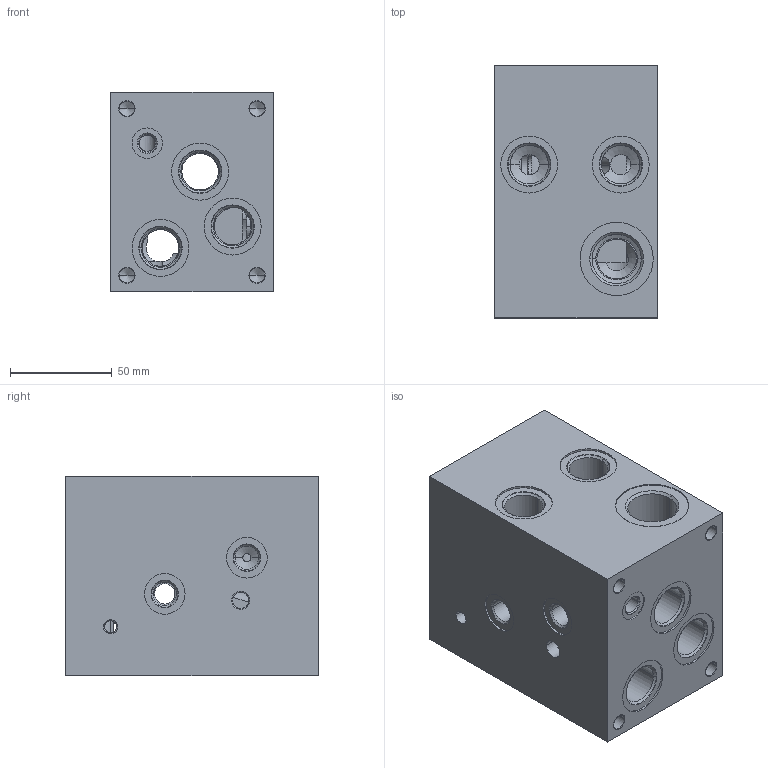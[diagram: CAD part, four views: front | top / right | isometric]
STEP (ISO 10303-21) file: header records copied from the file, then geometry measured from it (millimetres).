
FILE_DESCRIPTION((''),'2;1');
FILE_NAME('30348901','2023-11-15T',('l.soukupova'),(''),'PRO/ENGINEER BY PARAMETRIC TECHNOLOGY CORPORATION, 2015440','PRO/ENGINEER BY PARAMETRIC TECHNOLOGY CORPORATION, 2015440','');
FILE_SCHEMA(('AUTOMOTIVE_DESIGN { 1 0 10303 214 1 1 1 1 }'));
Length unit declared in the file: millimetre
Products named in the file (1): 30348901
Bounding box: 80 x 124 x 98 mm (x, y, z)
Volume: 697164.6 mm3; surface area: 116295.7 mm2
Topology: 1 solids, 26 shells, 338 faces, 1101 edges, 869 vertices
Faces by surface type: cylinder 182, cone 100, plane 56
Entity records: 14451 total; most frequent: CARTESIAN_POINT 4110, DIRECTION 2134, ORIENTED_EDGE 1668, EDGE_CURVE 884, AXIS2_PLACEMENT_3D 817, VERTEX_POINT 580, VECTOR 500, LINE 500
